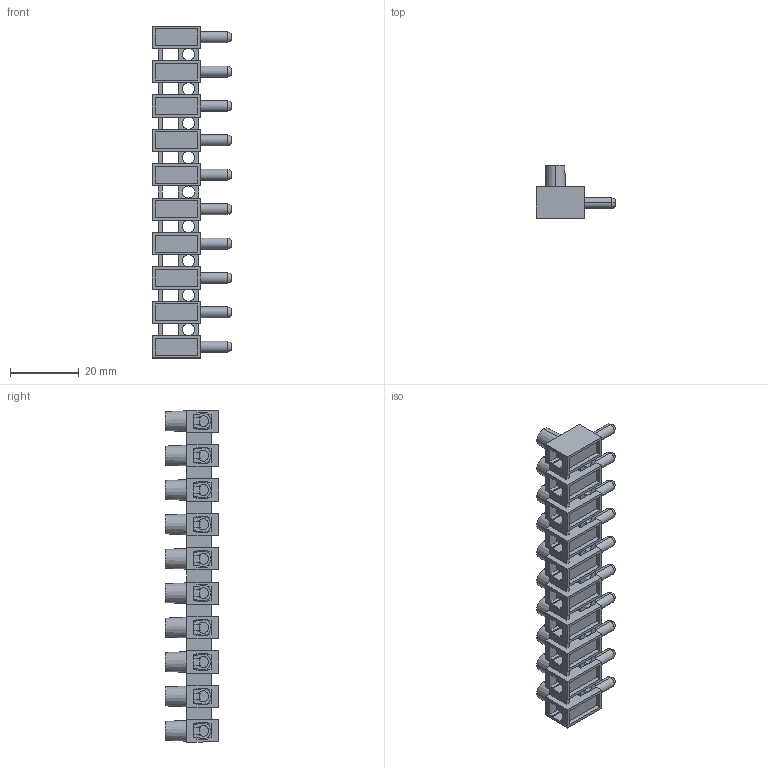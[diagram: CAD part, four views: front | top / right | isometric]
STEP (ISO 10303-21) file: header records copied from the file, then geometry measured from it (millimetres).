
FILE_DESCRIPTION (( 'STEP AP214' ), '1' );
FILE_NAME ('322-STFS-DS-10.STEP', '2008-04-15T01:43:01', ( ' ' ), ( '' ), 'SwSTEP 2.0', 'SolidWorks 2007', '' );
FILE_SCHEMA (( 'AUTOMOTIVE_DESIGN' ));
Length unit declared in the file: millimetre
Products named in the file (1): 322-STFS-DS-10
Bounding box: 23 x 15.5 x 96.5 mm (x, y, z)
Volume: 9294.7 mm3; surface area: 11495.7 mm2
Topology: 1 solids, 1 shells, 1192 faces, 3408 edges, 2240 vertices
Faces by surface type: plane 764, cylinder 288, cone 90, bspline 50
Entity records: 42055 total; most frequent: CARTESIAN_POINT 10501, ORIENTED_EDGE 6816, DIRECTION 6340, EDGE_CURVE 3408, VECTOR 2342, LINE 2342, VERTEX_POINT 2240, AXIS2_PLACEMENT_3D 1999
